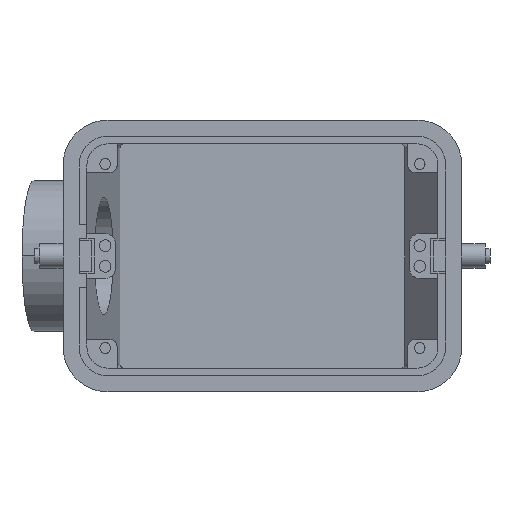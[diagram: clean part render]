
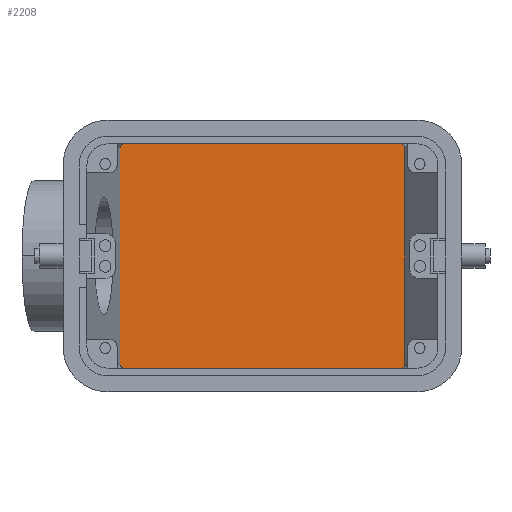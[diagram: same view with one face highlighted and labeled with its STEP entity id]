
A CAD part, front view. The second image highlights one B-rep face of the part: STEP entity #2208.
In plain terms, the highlighted planar face has unit normal (0, -1, 0).
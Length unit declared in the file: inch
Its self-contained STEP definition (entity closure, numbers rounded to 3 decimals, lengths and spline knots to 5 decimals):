
#196 = LINE ( 'NONE', #2807, #9903 ) ;
#252 = VERTEX_POINT ( 'NONE', #6668 ) ;
#418 = AXIS2_PLACEMENT_3D ( 'NONE', #1208, #11328, #6786 ) ;
#591 = CARTESIAN_POINT ( 'NONE',  ( 1.85483, 4.11, -1.41 ) ) ;
#810 =( BOUNDED_CURVE ( )  B_SPLINE_CURVE ( 3, ( #7651, #5768, #9941, #3513 ),
 .UNSPECIFIED., .F., .F. ) 
 B_SPLINE_CURVE_WITH_KNOTS ( ( 4, 4 ),
 ( 4.71239, 6.28319 ),
 .UNSPECIFIED. ) 
 CURVE ( )  GEOMETRIC_REPRESENTATION_ITEM ( )  RATIONAL_B_SPLINE_CURVE ( ( 1., 0.805, 0.805, 1. ) ) 
 REPRESENTATION_ITEM ( '' )  );
#1208 = CARTESIAN_POINT ( 'NONE',  ( -2.01, 4.11, -1.185 ) ) ;
#1615 = CARTESIAN_POINT ( 'NONE',  ( -1.85483, 4.11, -1.41 ) ) ;
#1919 = EDGE_CURVE ( 'NONE', #252, #6744, #810, .T. ) ;
#1923 = DIRECTION ( 'NONE',  ( 0., 0., -1. ) ) ;
#2031 = CARTESIAN_POINT ( 'NONE',  ( 1.85483, 4.11, -1.43929 ) ) ;
#2082 = CARTESIAN_POINT ( 'NONE',  ( -1.85483, 4.11, 1.43929 ) ) ;
#2180 = EDGE_CURVE ( 'NONE', #11794, #7524, #8954, .T. ) ;
#2208 = ADVANCED_FACE ( 'NONE', ( #11758 ), #3129, .F. ) ;
#2388 = CARTESIAN_POINT ( 'NONE',  ( -1.85483, 4.11, -1.41 ) ) ;
#2554 = ORIENTED_EDGE ( 'NONE', *, *, #11058, .F. ) ;
#2574 = EDGE_CURVE ( 'NONE', #8774, #8324, #11831, .T. ) ;
#2807 = CARTESIAN_POINT ( 'NONE',  ( -2.01, 4.11, 1.46 ) ) ;
#2933 = CARTESIAN_POINT ( 'NONE',  ( 1.80419, 4.11, -1.46 ) ) ;
#2960 = CARTESIAN_POINT ( 'NONE',  ( 1.85483, 4.11, 1.41 ) ) ;
#2986 = CARTESIAN_POINT ( 'NONE',  ( -1.80419, 4.11, 1.46 ) ) ;
#3129 = PLANE ( 'NONE',  #418 ) ;
#3513 = CARTESIAN_POINT ( 'NONE',  ( 1.85483, 4.11, 1.41 ) ) ;
#3764 = EDGE_CURVE ( 'NONE', #11794, #9315, #4787, .T. ) ;
#4301 = VECTOR ( 'NONE', #10341, 39.37008 ) ;
#4499 = CARTESIAN_POINT ( 'NONE',  ( -1.85483, 4.11, 1.41 ) ) ;
#4556 = DIRECTION ( 'NONE',  ( -1., 0., 0. ) ) ;
#4765 = CARTESIAN_POINT ( 'NONE',  ( -1.85483, 4.11, 1.41 ) ) ;
#4787 =( BOUNDED_CURVE ( )  B_SPLINE_CURVE ( 3, ( #4765, #2082, #8499, #2986 ),
 .UNSPECIFIED., .F., .F. ) 
 B_SPLINE_CURVE_WITH_KNOTS ( ( 4, 4 ),
 ( 0., 1.5708 ),
 .UNSPECIFIED. ) 
 CURVE ( )  GEOMETRIC_REPRESENTATION_ITEM ( )  RATIONAL_B_SPLINE_CURVE ( ( 1., 0.805, 0.805, 1. ) ) 
 REPRESENTATION_ITEM ( '' )  );
#5208 = CARTESIAN_POINT ( 'NONE',  ( -1.80419, 4.11, -1.46 ) ) ;
#5768 = CARTESIAN_POINT ( 'NONE',  ( 1.83385, 4.11, 1.46 ) ) ;
#6228 = CARTESIAN_POINT ( 'NONE',  ( -1.80419, 4.11, 1.46 ) ) ;
#6343 = VECTOR ( 'NONE', #1923, 39.37008 ) ;
#6490 = ORIENTED_EDGE ( 'NONE', *, *, #2574, .F. ) ;
#6668 = CARTESIAN_POINT ( 'NONE',  ( 1.80419, 4.11, 1.46 ) ) ;
#6744 = VERTEX_POINT ( 'NONE', #2960 ) ;
#6786 = DIRECTION ( 'NONE',  ( 0., 0., 1. ) ) ;
#6787 = CARTESIAN_POINT ( 'NONE',  ( -1.80419, 4.11, -1.46 ) ) ;
#6923 = CARTESIAN_POINT ( 'NONE',  ( 1.85483, 4.11, -1.41 ) ) ;
#6998 = ORIENTED_EDGE ( 'NONE', *, *, #1919, .F. ) ;
#7091 = CARTESIAN_POINT ( 'NONE',  ( -1.85483, 4.11, -1.43929 ) ) ;
#7325 = ORIENTED_EDGE ( 'NONE', *, *, #8873, .F. ) ;
#7354 = LINE ( 'NONE', #9442, #4301 ) ;
#7524 = VERTEX_POINT ( 'NONE', #2388 ) ;
#7651 = CARTESIAN_POINT ( 'NONE',  ( 1.80419, 4.11, 1.46 ) ) ;
#8143 = ORIENTED_EDGE ( 'NONE', *, *, #11596, .F. ) ;
#8324 = VERTEX_POINT ( 'NONE', #9580 ) ;
#8425 = EDGE_LOOP ( 'NONE', ( #9539, #7325, #2554, #6490, #11678, #6998, #8143, #10501 ) ) ;
#8440 = CARTESIAN_POINT ( 'NONE',  ( 1.83385, 4.11, -1.46 ) ) ;
#8499 = CARTESIAN_POINT ( 'NONE',  ( -1.83385, 4.11, 1.46 ) ) ;
#8774 = VERTEX_POINT ( 'NONE', #6923 ) ;
#8873 = EDGE_CURVE ( 'NONE', #9687, #7524, #9331, .T. ) ;
#8954 = LINE ( 'NONE', #10142, #6343 ) ;
#9034 = EDGE_CURVE ( 'NONE', #8774, #6744, #7354, .T. ) ;
#9072 = VECTOR ( 'NONE', #4556, 39.37008 ) ;
#9225 = DIRECTION ( 'NONE',  ( 1., 0., 0. ) ) ;
#9315 = VERTEX_POINT ( 'NONE', #6228 ) ;
#9331 =( BOUNDED_CURVE ( )  B_SPLINE_CURVE ( 3, ( #5208, #10681, #7091, #1615 ),
 .UNSPECIFIED., .F., .F. ) 
 B_SPLINE_CURVE_WITH_KNOTS ( ( 4, 4 ),
 ( 1.5708, 3.14159 ),
 .UNSPECIFIED. ) 
 CURVE ( )  GEOMETRIC_REPRESENTATION_ITEM ( )  RATIONAL_B_SPLINE_CURVE ( ( 1., 0.805, 0.805, 1. ) ) 
 REPRESENTATION_ITEM ( '' )  );
#9442 = CARTESIAN_POINT ( 'NONE',  ( 1.85483, 4.11, -1.185 ) ) ;
#9539 = ORIENTED_EDGE ( 'NONE', *, *, #2180, .T. ) ;
#9580 = CARTESIAN_POINT ( 'NONE',  ( 1.80419, 4.11, -1.46 ) ) ;
#9687 = VERTEX_POINT ( 'NONE', #6787 ) ;
#9903 = VECTOR ( 'NONE', #9225, 39.37008 ) ;
#9941 = CARTESIAN_POINT ( 'NONE',  ( 1.85483, 4.11, 1.43929 ) ) ;
#10066 = CARTESIAN_POINT ( 'NONE',  ( -2.01, 4.11, -1.46 ) ) ;
#10142 = CARTESIAN_POINT ( 'NONE',  ( -1.85483, 4.11, -1.185 ) ) ;
#10341 = DIRECTION ( 'NONE',  ( 0., 0., 1. ) ) ;
#10501 = ORIENTED_EDGE ( 'NONE', *, *, #3764, .F. ) ;
#10681 = CARTESIAN_POINT ( 'NONE',  ( -1.83385, 4.11, -1.46 ) ) ;
#11058 = EDGE_CURVE ( 'NONE', #8324, #9687, #11723, .T. ) ;
#11328 = DIRECTION ( 'NONE',  ( 0., 1., 0. ) ) ;
#11596 = EDGE_CURVE ( 'NONE', #9315, #252, #196, .T. ) ;
#11678 = ORIENTED_EDGE ( 'NONE', *, *, #9034, .T. ) ;
#11723 = LINE ( 'NONE', #10066, #9072 ) ;
#11758 = FACE_OUTER_BOUND ( 'NONE', #8425, .T. ) ;
#11794 = VERTEX_POINT ( 'NONE', #4499 ) ;
#11831 =( BOUNDED_CURVE ( )  B_SPLINE_CURVE ( 3, ( #591, #2031, #8440, #2933 ),
 .UNSPECIFIED., .F., .T. ) 
 B_SPLINE_CURVE_WITH_KNOTS ( ( 4, 4 ),
 ( 3.14159, 4.71239 ),
 .UNSPECIFIED. ) 
 CURVE ( )  GEOMETRIC_REPRESENTATION_ITEM ( )  RATIONAL_B_SPLINE_CURVE ( ( 1., 0.805, 0.805, 1. ) ) 
 REPRESENTATION_ITEM ( '' )  );
